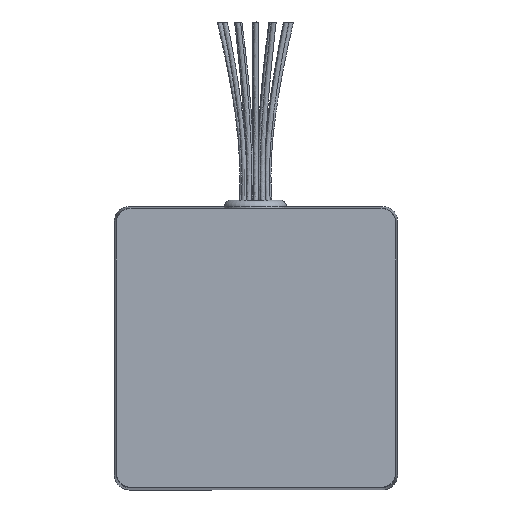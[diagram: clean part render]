
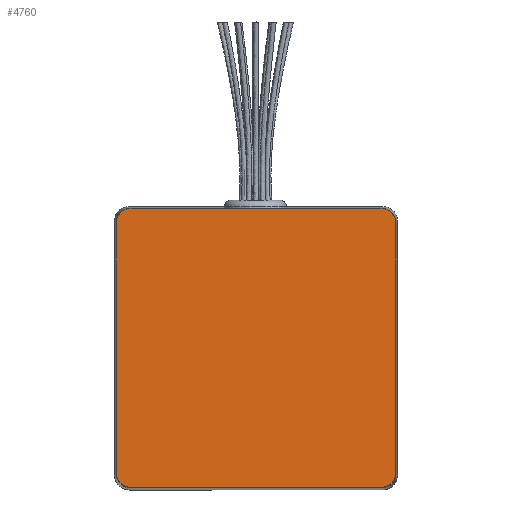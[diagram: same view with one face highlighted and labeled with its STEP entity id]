
A CAD part, top view. The second image highlights one B-rep face of the part: STEP entity #4760.
In plain terms, the highlighted planar face has unit normal (0, 0, 1).
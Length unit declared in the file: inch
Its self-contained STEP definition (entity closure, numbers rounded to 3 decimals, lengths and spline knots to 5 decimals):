
#4133=CARTESIAN_POINT('',(-1.0065,1.125,3.646));
#4134=VERTEX_POINT('',#4133);
#4141=CARTESIAN_POINT('',(1.0065,1.125,3.646));
#4142=VERTEX_POINT('',#4141);
#4143=CARTESIAN_POINT('',(-1.0065,1.125,3.646));
#4144=DIRECTION('',(1.0,0.0,0.0));
#4145=VECTOR('',#4144,2.013);
#4146=LINE('',#4143,#4145);
#4147=EDGE_CURVE('',#4134,#4142,#4146,.T.);
#4485=CARTESIAN_POINT('',(1.125,-1.0065,3.646));
#4486=VERTEX_POINT('',#4485);
#4487=CARTESIAN_POINT('',(1.0065,-1.125,3.646));
#4488=VERTEX_POINT('',#4487);
#4489=CARTESIAN_POINT('',(1.0065,-1.0065,3.646));
#4490=DIRECTION('',(0.0,0.0,-1.));
#4491=DIRECTION('',(0.707,-0.707,0.0));
#4492=AXIS2_PLACEMENT_3D('',#4489,#4490,#4491);
#4493=CIRCLE('',#4492,0.1185);
#4494=EDGE_CURVE('',#4486,#4488,#4493,.T.);
#4585=CARTESIAN_POINT('',(-1.0065,-1.125,3.646));
#4586=VERTEX_POINT('',#4585);
#4587=CARTESIAN_POINT('',(1.0065,-1.125,3.646));
#4588=DIRECTION('',(-1.0,0.0,0.0));
#4589=VECTOR('',#4588,2.013);
#4590=LINE('',#4587,#4589);
#4591=EDGE_CURVE('',#4488,#4586,#4590,.T.);
#4624=CARTESIAN_POINT('',(-1.125,-1.0065,3.646));
#4625=VERTEX_POINT('',#4624);
#4626=CARTESIAN_POINT('',(-1.0065,-1.0065,3.646));
#4627=DIRECTION('',(0.0,0.0,-1.));
#4628=DIRECTION('',(-0.707,-0.707,0.0));
#4629=AXIS2_PLACEMENT_3D('',#4626,#4627,#4628);
#4630=CIRCLE('',#4629,0.1185);
#4631=EDGE_CURVE('',#4586,#4625,#4630,.T.);
#4707=CARTESIAN_POINT('',(-1.125,1.0065,3.646));
#4708=VERTEX_POINT('',#4707);
#4709=CARTESIAN_POINT('',(-1.0065,1.0065,3.646));
#4710=DIRECTION('',(0.0,0.0,-1.));
#4711=DIRECTION('',(-0.707,0.707,0.0));
#4712=AXIS2_PLACEMENT_3D('',#4709,#4710,#4711);
#4713=CIRCLE('',#4712,0.1185);
#4714=EDGE_CURVE('',#4708,#4134,#4713,.T.);
#4727=CARTESIAN_POINT('',(0.0,0.,3.646));
#4728=DIRECTION('',(0.0,0.0,1.0));
#4729=DIRECTION('',(1.0,0.0,0.0));
#4730=AXIS2_PLACEMENT_3D('',#4727,#4728,#4729);
#4731=PLANE('',#4730);
#4732=ORIENTED_EDGE('',*,*,#4494,.F.);
#4733=CARTESIAN_POINT('',(1.125,1.0065,3.646));
#4734=VERTEX_POINT('',#4733);
#4735=CARTESIAN_POINT('',(1.125,1.0065,3.646));
#4736=DIRECTION('',(0.0,-1.0,0.0));
#4737=VECTOR('',#4736,2.013);
#4738=LINE('',#4735,#4737);
#4739=EDGE_CURVE('',#4734,#4486,#4738,.T.);
#4740=ORIENTED_EDGE('',*,*,#4739,.F.);
#4741=CARTESIAN_POINT('',(1.0065,1.0065,3.646));
#4742=DIRECTION('',(0.0,0.0,-1.));
#4743=DIRECTION('',(0.707,0.707,0.0));
#4744=AXIS2_PLACEMENT_3D('',#4741,#4742,#4743);
#4745=CIRCLE('',#4744,0.1185);
#4746=EDGE_CURVE('',#4142,#4734,#4745,.T.);
#4747=ORIENTED_EDGE('',*,*,#4746,.F.);
#4748=ORIENTED_EDGE('',*,*,#4147,.F.);
#4749=ORIENTED_EDGE('',*,*,#4714,.F.);
#4750=CARTESIAN_POINT('',(-1.125,-1.0065,3.646));
#4751=DIRECTION('',(0.0,1.0,0.0));
#4752=VECTOR('',#4751,2.013);
#4753=LINE('',#4750,#4752);
#4754=EDGE_CURVE('',#4625,#4708,#4753,.T.);
#4755=ORIENTED_EDGE('',*,*,#4754,.F.);
#4756=ORIENTED_EDGE('',*,*,#4631,.F.);
#4757=ORIENTED_EDGE('',*,*,#4591,.F.);
#4758=EDGE_LOOP('',(#4732,#4740,#4747,#4748,#4749,#4755,#4756,#4757));
#4759=FACE_OUTER_BOUND('',#4758,.T.);
#4760=ADVANCED_FACE('',(#4759),#4731,.T.);
